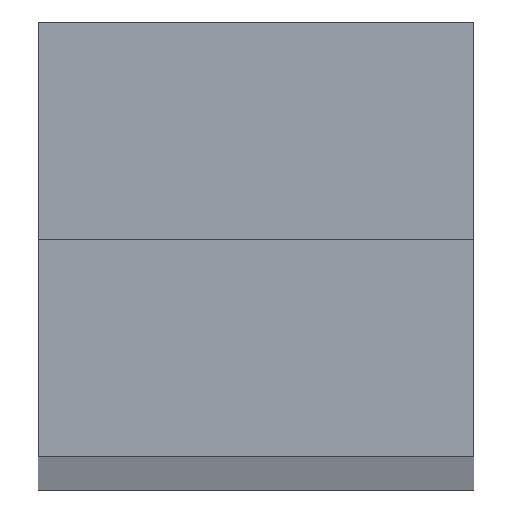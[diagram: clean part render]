
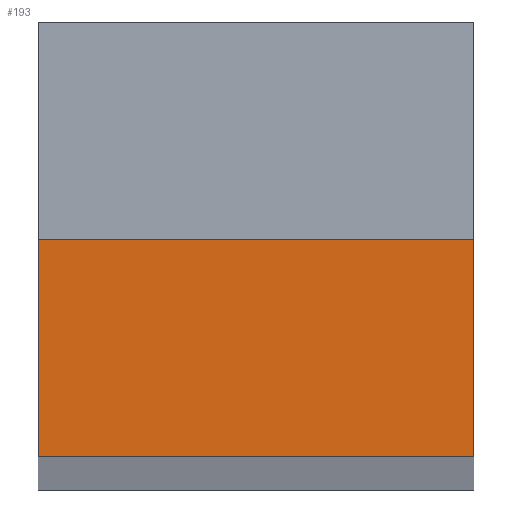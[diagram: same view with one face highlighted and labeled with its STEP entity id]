
A CAD part, top view. The second image highlights one B-rep face of the part: STEP entity #193.
In plain terms, the highlighted planar face has unit normal (0, 0, 1).
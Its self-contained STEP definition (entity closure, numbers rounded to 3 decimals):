
#21 = EDGE_CURVE('',#22,#24,#26,.T.);
#22 = VERTEX_POINT('',#23);
#23 = CARTESIAN_POINT('',(0.,0.,2175.));
#24 = VERTEX_POINT('',#25);
#25 = CARTESIAN_POINT('',(0.,25.,2175.));
#26 = SURFACE_CURVE('',#27,(#31,#43),.PCURVE_S1.);
#27 = LINE('',#28,#29);
#28 = CARTESIAN_POINT('',(0.,0.,2175.));
#29 = VECTOR('',#30,1.);
#30 = DIRECTION('',(0.,1.,0.));
#31 = PCURVE('',#32,#37);
#32 = PLANE('',#33);
#33 = AXIS2_PLACEMENT_3D('',#34,#35,#36);
#34 = CARTESIAN_POINT('',(0.,0.,0.));
#35 = DIRECTION('',(1.,0.,0.));
#36 = DIRECTION('',(0.,0.,1.));
#37 = DEFINITIONAL_REPRESENTATION('',(#38),#42);
#38 = LINE('',#39,#40);
#39 = CARTESIAN_POINT('',(2175.,0.));
#40 = VECTOR('',#41,1.);
#41 = DIRECTION('',(0.,-1.));
#42 = ( GEOMETRIC_REPRESENTATION_CONTEXT(2) 
PARAMETRIC_REPRESENTATION_CONTEXT() REPRESENTATION_CONTEXT('2D SPACE',''
  ) );
#43 = PCURVE('',#44,#49);
#44 = PLANE('',#45);
#45 = AXIS2_PLACEMENT_3D('',#46,#47,#48);
#46 = CARTESIAN_POINT('',(0.,0.,2175.));
#47 = DIRECTION('',(0.,0.,1.));
#48 = DIRECTION('',(1.,0.,0.));
#49 = DEFINITIONAL_REPRESENTATION('',(#50),#54);
#50 = LINE('',#51,#52);
#51 = CARTESIAN_POINT('',(0.,0.));
#52 = VECTOR('',#53,1.);
#53 = DIRECTION('',(0.,1.));
#54 = ( GEOMETRIC_REPRESENTATION_CONTEXT(2) 
PARAMETRIC_REPRESENTATION_CONTEXT() REPRESENTATION_CONTEXT('2D SPACE',''
  ) );
#72 = PLANE('',#73);
#73 = AXIS2_PLACEMENT_3D('',#74,#75,#76);
#74 = CARTESIAN_POINT('',(0.,0.,0.));
#75 = DIRECTION('',(0.,1.,0.));
#76 = DIRECTION('',(0.,0.,1.));
#182 = PLANE('',#183);
#183 = AXIS2_PLACEMENT_3D('',#184,#185,#186);
#184 = CARTESIAN_POINT('',(0.,25.,2150.));
#185 = DIRECTION('',(0.,1.,0.));
#186 = DIRECTION('',(0.,0.,1.));
#193 = ADVANCED_FACE('',(#194),#44,.T.);
#194 = FACE_BOUND('',#195,.T.);
#195 = EDGE_LOOP('',(#196,#197,#220,#248));
#196 = ORIENTED_EDGE('',*,*,#21,.F.);
#197 = ORIENTED_EDGE('',*,*,#198,.T.);
#198 = EDGE_CURVE('',#22,#199,#201,.T.);
#199 = VERTEX_POINT('',#200);
#200 = CARTESIAN_POINT('',(50.,0.,2175.));
#201 = SURFACE_CURVE('',#202,(#206,#213),.PCURVE_S1.);
#202 = LINE('',#203,#204);
#203 = CARTESIAN_POINT('',(0.,0.,2175.));
#204 = VECTOR('',#205,1.);
#205 = DIRECTION('',(1.,0.,0.));
#206 = PCURVE('',#44,#207);
#207 = DEFINITIONAL_REPRESENTATION('',(#208),#212);
#208 = LINE('',#209,#210);
#209 = CARTESIAN_POINT('',(0.,0.));
#210 = VECTOR('',#211,1.);
#211 = DIRECTION('',(1.,0.));
#212 = ( GEOMETRIC_REPRESENTATION_CONTEXT(2) 
PARAMETRIC_REPRESENTATION_CONTEXT() REPRESENTATION_CONTEXT('2D SPACE',''
  ) );
#213 = PCURVE('',#72,#214);
#214 = DEFINITIONAL_REPRESENTATION('',(#215),#219);
#215 = LINE('',#216,#217);
#216 = CARTESIAN_POINT('',(2175.,0.));
#217 = VECTOR('',#218,1.);
#218 = DIRECTION('',(0.,1.));
#219 = ( GEOMETRIC_REPRESENTATION_CONTEXT(2) 
PARAMETRIC_REPRESENTATION_CONTEXT() REPRESENTATION_CONTEXT('2D SPACE',''
  ) );
#220 = ORIENTED_EDGE('',*,*,#221,.T.);
#221 = EDGE_CURVE('',#199,#222,#224,.T.);
#222 = VERTEX_POINT('',#223);
#223 = CARTESIAN_POINT('',(50.,25.,2175.));
#224 = SURFACE_CURVE('',#225,(#229,#236),.PCURVE_S1.);
#225 = LINE('',#226,#227);
#226 = CARTESIAN_POINT('',(50.,0.,2175.));
#227 = VECTOR('',#228,1.);
#228 = DIRECTION('',(0.,1.,0.));
#229 = PCURVE('',#44,#230);
#230 = DEFINITIONAL_REPRESENTATION('',(#231),#235);
#231 = LINE('',#232,#233);
#232 = CARTESIAN_POINT('',(50.,0.));
#233 = VECTOR('',#234,1.);
#234 = DIRECTION('',(0.,1.));
#235 = ( GEOMETRIC_REPRESENTATION_CONTEXT(2) 
PARAMETRIC_REPRESENTATION_CONTEXT() REPRESENTATION_CONTEXT('2D SPACE',''
  ) );
#236 = PCURVE('',#237,#242);
#237 = PLANE('',#238);
#238 = AXIS2_PLACEMENT_3D('',#239,#240,#241);
#239 = CARTESIAN_POINT('',(50.,0.,0.));
#240 = DIRECTION('',(1.,0.,0.));
#241 = DIRECTION('',(0.,0.,1.));
#242 = DEFINITIONAL_REPRESENTATION('',(#243),#247);
#243 = LINE('',#244,#245);
#244 = CARTESIAN_POINT('',(2175.,0.));
#245 = VECTOR('',#246,1.);
#246 = DIRECTION('',(0.,-1.));
#247 = ( GEOMETRIC_REPRESENTATION_CONTEXT(2) 
PARAMETRIC_REPRESENTATION_CONTEXT() REPRESENTATION_CONTEXT('2D SPACE',''
  ) );
#248 = ORIENTED_EDGE('',*,*,#249,.F.);
#249 = EDGE_CURVE('',#24,#222,#250,.T.);
#250 = SURFACE_CURVE('',#251,(#255,#262),.PCURVE_S1.);
#251 = LINE('',#252,#253);
#252 = CARTESIAN_POINT('',(0.,25.,2175.));
#253 = VECTOR('',#254,1.);
#254 = DIRECTION('',(1.,0.,0.));
#255 = PCURVE('',#44,#256);
#256 = DEFINITIONAL_REPRESENTATION('',(#257),#261);
#257 = LINE('',#258,#259);
#258 = CARTESIAN_POINT('',(0.,25.));
#259 = VECTOR('',#260,1.);
#260 = DIRECTION('',(1.,0.));
#261 = ( GEOMETRIC_REPRESENTATION_CONTEXT(2) 
PARAMETRIC_REPRESENTATION_CONTEXT() REPRESENTATION_CONTEXT('2D SPACE',''
  ) );
#262 = PCURVE('',#182,#263);
#263 = DEFINITIONAL_REPRESENTATION('',(#264),#268);
#264 = LINE('',#265,#266);
#265 = CARTESIAN_POINT('',(25.,0.));
#266 = VECTOR('',#267,1.);
#267 = DIRECTION('',(0.,1.));
#268 = ( GEOMETRIC_REPRESENTATION_CONTEXT(2) 
PARAMETRIC_REPRESENTATION_CONTEXT() REPRESENTATION_CONTEXT('2D SPACE',''
  ) );
